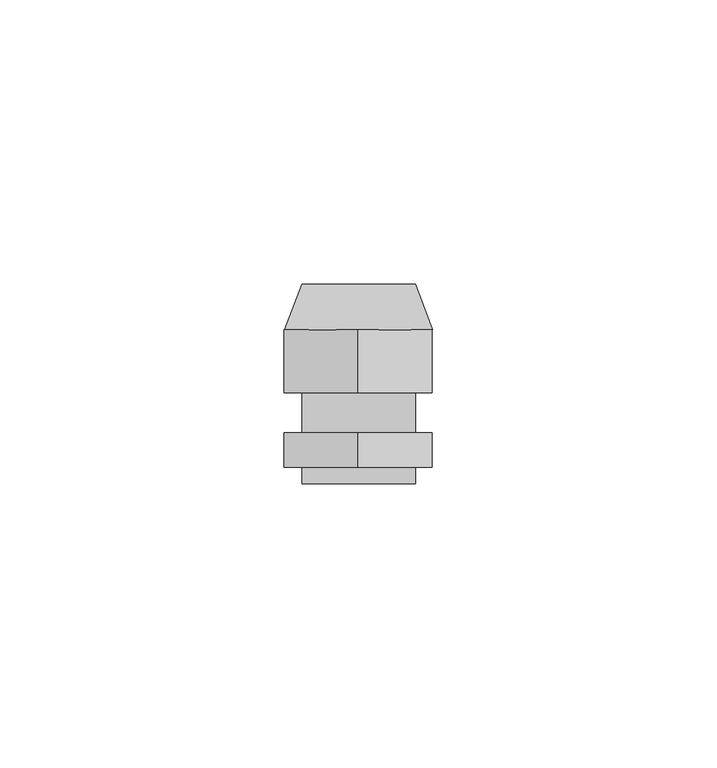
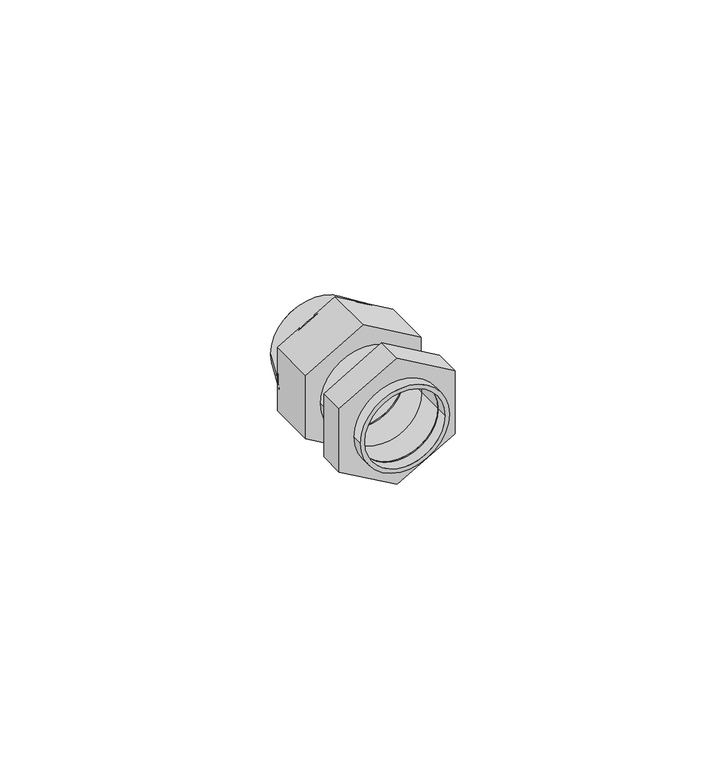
"""IFC4 building model written with IfcOpenShell, lengths in millimetres: cable carrier fitting geometry, Сальник_PGL_D_11-48_IP54 : Сальник PG 13,5 диаметр проводника 7-11мм IP54."""

from ifc_helpers import new_model, si_unit, point, frame, frame_2d, origin, place, context, project, spatial, polyline, circle_curve, trimmed, segment, composite_curve, outline, extrude, source, transform, mapped, element, save
from ifc_brep_helpers import plane_surface, revolved_surface, advanced_brep


def cable_carrier_fitting_d38100db(model_context):
    return source(origin(), model_context, "Body", "SolidModel", [
        advanced_brep(
        [(-8.9094864, 0.0, 0.0057257), (-8.9094864, -8.0, 0.0057257), (9.0905136, -8.0, 0.0057257), (9.0905136, 0.0, 0.0057257), (-12.9010286, -8.0, 0.0), (13.0989714, -8.0, 0.0), (-9.9010286, 0.0, 0.0), (10.0989714, 0.0, 0.0)],
        [
            (0, 1),
            (1, 2, circle_curve(frame((0.0905136, -8.0, 0.0057257), z_axis=(0.0, -1.0, 0.0), x_axis=(1.0, 0.0, 0.0)), 9.0)),
            (2, 3),
            (3, 0, circle_curve(frame((0.0905136, 0.0, 0.0057257), z_axis=(0.0, 1.0, 0.0), x_axis=(1.0, 0.0, 0.0)), 9.0)),
            (0, 3, circle_curve(frame((0.0905136, 0.0, 0.0057257), z_axis=(0.0, 1.0, 0.0), x_axis=(1.0, 0.0, 0.0)), 9.0)),
            (2, 1, circle_curve(frame((0.0905136, -8.0, 0.0057257), z_axis=(0.0, -1.0, 0.0), x_axis=(1.0, 0.0, 0.0)), 9.0)),
            (4, 5, circle_curve(frame((0.0989714, -8.0, 0.0), z_axis=(0.0, -1.0, 0.0), x_axis=(-1.0, 0.0, 0.0)), 13.0)),
            (5, 4, circle_curve(frame((0.0989714, -8.0, 0.0), z_axis=(0.0, -1.0, 0.0), x_axis=(1.0, 0.0, 0.0)), 13.0)),
            (6, 7, circle_curve(frame((0.0989714, 0.0, 0.0), z_axis=(0.0, 1.0, 0.0), x_axis=(1.0, 0.0, 0.0)), 10.0)),
            (7, 6, circle_curve(frame((0.0989714, 0.0, 0.0), z_axis=(0.0, 1.0, 0.0), x_axis=(-1.0, 0.0, 0.0)), 10.0)),
            (4, 6),
            (7, 5),
        ],
        [
            revolved_surface(polyline([(9.0905136, -8.0, 0.0057257), (9.0905136, 0.0, 0.0057257)]), (0.0905136, 9.180646, 0.0057257), (0.0, -1.0, 0.0)),
            plane_surface(frame((0.0989714, -8.0, 0.0), z_axis=(0.0, -1.0, 0.0), x_axis=(0.0, 0.0, -1.0))),
            plane_surface(frame((0.0989714, 0.0, 0.0), z_axis=(0.0, 1.0, 0.0), x_axis=(0.0, 0.0, -1.0))),
            revolved_surface(polyline([(10.098971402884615, -3.552713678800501e-15, 0.0), (13.0989714, -8.0, 0.0)]), (0.0989714, 26.6666667, 0.0), (0.0, -1.0, 0.0)),
            revolved_surface(polyline([(-9.901028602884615, -3.552713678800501e-15, 0.0), (-12.9010286, -8.0, 0.0)]), (0.0989714, 26.6666667, 0.0), (0.0, -1.0, 0.0)),
        ],
        [
            (0, [[1, 2, 3, 4]]),
            (0, [[-1, 5, -3, 6]]),
            (1, [[7, 8], [-2, -6]]),
            (2, [[9, 10], [-4, -5]]),
            (3, [[-7, 11, -10, 12]]),
            (4, [[-8, -12, -9, -11]]),
        ],
    ),
        extrude(outline(polyline([(-7.4583136, 13.0), (7.5416586, 12.9711218), (15.0500151, -0.0144311), (7.5416864, -13.0), (-7.4583136, -13.0), (-14.9416284, 0.0), (-7.4583136, 13.0)]), holes=[composite_curve([segment(trimmed(circle_curve(frame_2d((0.0057257, 0.0905136)), 9.0), [point((0.0057257, 9.0905136))], [point((0.0057257, -8.9094864))], True, "CARTESIAN"), True, "CONTINUOUS"), segment(trimmed(circle_curve(frame_2d((0.0057257, 0.0905136)), 9.0), [point((0.0057257, -8.9094864))], [point((0.0057257, 9.0905136))], True, "CARTESIAN"), True, "CONTINUOUS")], self_intersect=False)]), frame((0.0, -19.0, 0.0), z_axis=(0.0, 1.0, 0.0), x_axis=(0.0, 0.0, 1.0)), (0.0, 0.0, 1.0), 11.0),
        extrude(outline(polyline([(-7.4583136, 13.0), (7.5416586, 12.9711218), (15.0500151, -0.0144311), (7.5416864, -13.0), (-7.4583136, -13.0), (-14.9416284, 0.0), (-7.4583136, 13.0)]), holes=[composite_curve([segment(trimmed(circle_curve(frame_2d((0.0057257, 0.0905136)), 9.0), [point((0.0057257, 9.0905136))], [point((0.0057257, -8.9094864))], True, "CARTESIAN"), True, "CONTINUOUS"), segment(trimmed(circle_curve(frame_2d((0.0057257, 0.0905136)), 9.0), [point((0.0057257, -8.9094864))], [point((0.0057257, 9.0905136))], True, "CARTESIAN"), True, "CONTINUOUS")], self_intersect=False)]), frame((0.0, -32.1018563, 0.0), z_axis=(0.0, 1.0, 0.0), x_axis=(0.0, 0.0, 1.0)), (0.0, 0.0, 1.0), 6.0),
        extrude(outline(composite_curve([segment(trimmed(circle_curve(frame_2d((0.0032191, 0.0900025)), 10.0), [point((0.0032191, -9.9099975))], [point((0.0032191, 10.0900025))], False, "CARTESIAN"), True, "CONTINUOUS"), segment(trimmed(circle_curve(frame_2d((0.0032191, 0.0900025)), 10.0), [point((0.0032191, 10.0900025))], [point((0.0032191, -9.9099975))], False, "CARTESIAN"), True, "CONTINUOUS")], self_intersect=False), holes=[composite_curve([segment(trimmed(circle_curve(frame_2d((0.0057257, 0.0905136)), 9.0), [point((0.0057257, 9.0905136))], [point((0.0057257, -8.9094864))], True, "CARTESIAN"), True, "CONTINUOUS"), segment(trimmed(circle_curve(frame_2d((0.0057257, 0.0905136)), 9.0), [point((0.0057257, -8.9094864))], [point((0.0057257, 9.0905136))], True, "CARTESIAN"), True, "CONTINUOUS")], self_intersect=False)]), frame((0.0, -35.0, 0.0), z_axis=(0.0, 1.0, 0.0), x_axis=(0.0, 0.0, 1.0)), (0.0, 0.0, 1.0), 35.0),
    ])


if __name__ == "__main__":
    model = new_model("IFC4")
    model_context = context("Model", 3, world=origin())
    ifc_project = project(units=[si_unit("LENGTHUNIT", "METRE", prefix="MILLI")], contexts=[model_context])
    site = spatial("IfcSite", under=ifc_project)
    building = spatial("IfcBuilding", under=site)
    placement = place(None, origin())
    cable_carrier_fitting_shape = cable_carrier_fitting_d38100db(model_context)
    element("IfcCableCarrierFitting", 1, ObjectType="Сальник_PGL_D_11-48_IP54 : Сальник PG 13,5 диаметр проводника 7-11мм IP54", at=placement, inside=building, context=model_context, shape_type="MappedRepresentation", body=[
        mapped(cable_carrier_fitting_shape, transform((0.0, 0.0, 0.0), x_axis=(1.0, 0.0, 0.0), y_axis=(0.0, 1.0, 0.0), z_axis=(0.0, 0.0, 1.0))),
    ])
    save(model, "model.ifc")
